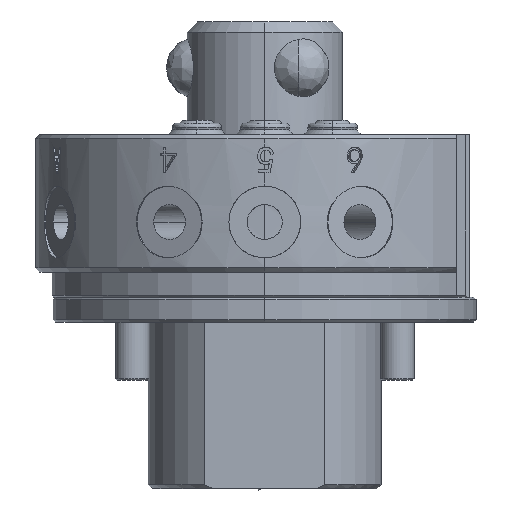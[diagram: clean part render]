
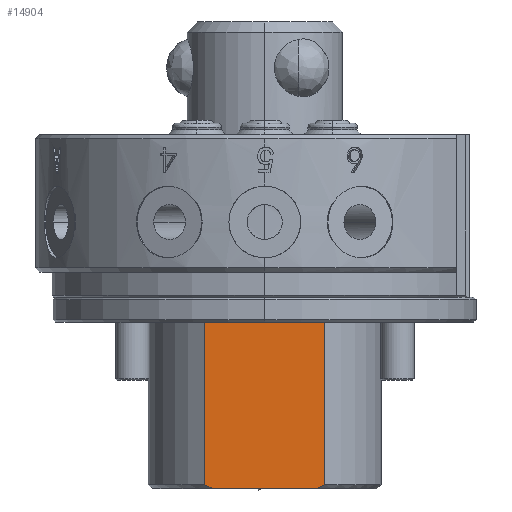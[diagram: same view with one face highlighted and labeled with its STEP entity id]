
A CAD part, left-side view. The second image highlights one B-rep face of the part: STEP entity #14904.
In plain terms, the highlighted planar face has unit normal (-1, 0, 0).
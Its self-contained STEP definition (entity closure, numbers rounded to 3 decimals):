
#191 = DIRECTION ( 'NONE',  ( 0., 0., -1. ) ) ;
#249 = DIRECTION ( 'NONE',  ( 1., 0., 0. ) ) ;
#280 = PLANE ( 'NONE',  #9440 ) ;
#341 = CARTESIAN_POINT ( 'NONE',  ( -12., -19.156, -26.588 ) ) ;
#344 = VERTEX_POINT ( 'NONE', #12052 ) ;
#1631 = EDGE_CURVE ( 'NONE', #344, #12756, #6675, .T. ) ;
#1673 = ORIENTED_EDGE ( 'NONE', *, *, #20388, .F. ) ;
#1862 = CARTESIAN_POINT ( 'NONE',  ( -12., 7.211, -55.5 ) ) ;
#2190 = ORIENTED_EDGE ( 'NONE', *, *, #25331, .F. ) ;
#2529 = LINE ( 'NONE', #5925, #11895 ) ;
#4463 = VECTOR ( 'NONE', #6570, 1000. ) ;
#4622 = EDGE_LOOP ( 'NONE', ( #5456, #2190, #24883, #1673, #23412, #7978 ) ) ;
#4800 = LINE ( 'NONE', #7987, #4463 ) ;
#4834 = VERTEX_POINT ( 'NONE', #26028 ) ;
#5416 = DIRECTION ( 'NONE',  ( 0., 1., 0. ) ) ;
#5456 = ORIENTED_EDGE ( 'NONE', *, *, #1631, .F. ) ;
#5879 = CARTESIAN_POINT ( 'NONE',  ( -12., 0., -56. ) ) ;
#5925 = CARTESIAN_POINT ( 'NONE',  ( -12., 0., -36. ) ) ;
#6205 = CARTESIAN_POINT ( 'NONE',  ( -12., -6.185, -56. ) ) ;
#6570 = DIRECTION ( 'NONE',  ( 0., 0., -1. ) ) ;
#6675 = B_SPLINE_CURVE_WITH_KNOTS ( 'NONE', 3,
 ( #23294, #23166, #23050, #23047 ),
 .UNSPECIFIED., .F., .F.,
 ( 4, 4 ),
 ( 0., 1. ),
 .UNSPECIFIED. ) ;
#7221 = VECTOR ( 'NONE', #8048, 1000. ) ;
#7556 = LINE ( 'NONE', #5879, #7221 ) ;
#7978 = ORIENTED_EDGE ( 'NONE', *, *, #26387, .F. ) ;
#7987 = CARTESIAN_POINT ( 'NONE',  ( -12., -7.211, -50. ) ) ;
#8048 = DIRECTION ( 'NONE',  ( 0., 1., 0. ) ) ;
#9022 = VECTOR ( 'NONE', #25427, 1000. ) ;
#9440 = AXIS2_PLACEMENT_3D ( 'NONE', #341, #249, #191 ) ;
#9441 = VERTEX_POINT ( 'NONE', #12245 ) ;
#11131 = CARTESIAN_POINT ( 'NONE',  ( -12., 7.211, -61. ) ) ;
#11895 = VECTOR ( 'NONE', #5416, 1000. ) ;
#12052 = CARTESIAN_POINT ( 'NONE',  ( -12., 6.185, -56. ) ) ;
#12245 = CARTESIAN_POINT ( 'NONE',  ( -12., -6.185, -56. ) ) ;
#12606 = CARTESIAN_POINT ( 'NONE',  ( -12., -7.211, -55.5 ) ) ;
#12756 = VERTEX_POINT ( 'NONE', #1862 ) ;
#12803 = EDGE_CURVE ( 'NONE', #4834, #13218, #2529, .T. ) ;
#13218 = VERTEX_POINT ( 'NONE', #26149 ) ;
#13410 = FACE_OUTER_BOUND ( 'NONE', #4622, .T. ) ;
#14904 = ADVANCED_FACE ( 'NONE', ( #13410 ), #280, .F. ) ;
#18821 = CARTESIAN_POINT ( 'NONE',  ( -12., -6.523, -55.845 ) ) ;
#19531 = B_SPLINE_CURVE_WITH_KNOTS ( 'NONE', 3,
 ( #12606, #22855, #18821, #6205 ),
 .UNSPECIFIED., .F., .F.,
 ( 4, 4 ),
 ( 0., 1. ),
 .UNSPECIFIED. ) ;
#20388 = EDGE_CURVE ( 'NONE', #4834, #26585, #4800, .T. ) ;
#20977 = CARTESIAN_POINT ( 'NONE',  ( -12., -7.211, -55.5 ) ) ;
#22089 = EDGE_CURVE ( 'NONE', #26585, #9441, #19531, .T. ) ;
#22855 = CARTESIAN_POINT ( 'NONE',  ( -12., -6.865, -55.678 ) ) ;
#23047 = CARTESIAN_POINT ( 'NONE',  ( -12., 7.211, -55.5 ) ) ;
#23050 = CARTESIAN_POINT ( 'NONE',  ( -12., 6.865, -55.678 ) ) ;
#23166 = CARTESIAN_POINT ( 'NONE',  ( -12., 6.523, -55.845 ) ) ;
#23294 = CARTESIAN_POINT ( 'NONE',  ( -12., 6.185, -56. ) ) ;
#23412 = ORIENTED_EDGE ( 'NONE', *, *, #12803, .T. ) ;
#23639 = LINE ( 'NONE', #11131, #9022 ) ;
#24883 = ORIENTED_EDGE ( 'NONE', *, *, #22089, .F. ) ;
#25331 = EDGE_CURVE ( 'NONE', #9441, #344, #7556, .T. ) ;
#25427 = DIRECTION ( 'NONE',  ( 0., 0., 1. ) ) ;
#26028 = CARTESIAN_POINT ( 'NONE',  ( -12., -7.211, -36. ) ) ;
#26149 = CARTESIAN_POINT ( 'NONE',  ( -12., 7.211, -36. ) ) ;
#26387 = EDGE_CURVE ( 'NONE', #12756, #13218, #23639, .T. ) ;
#26585 = VERTEX_POINT ( 'NONE', #20977 ) ;
